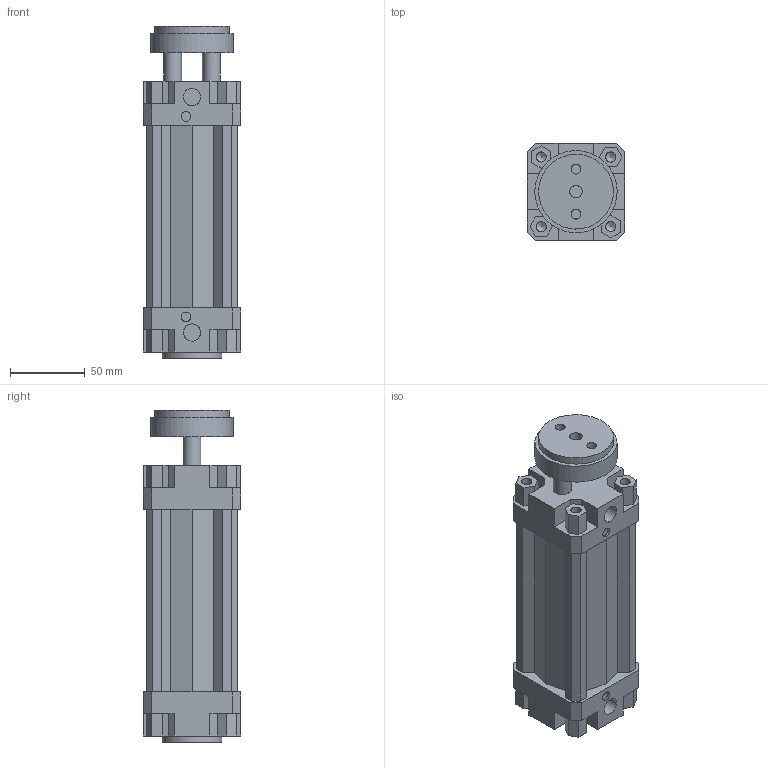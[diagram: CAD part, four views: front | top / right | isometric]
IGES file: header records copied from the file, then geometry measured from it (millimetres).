
Global section: file name: 132#_050_0075_01; native system: Autodesk Inventor 2014; preprocessor: unknown; author: A. Manieri; date: 20161006.155700; units: millimetre
Bounding box: 65 x 65 x 222 mm (x, y, z)
Volume: 498394.6 mm3; surface area: 120470.6 mm2
Topology: 2 solids, 2 shells, 180 faces, 492 edges, 336 vertices
Faces by surface type: bspline 180
